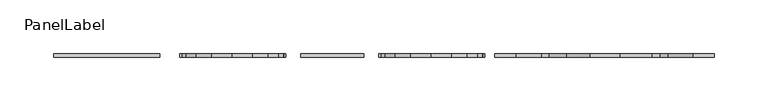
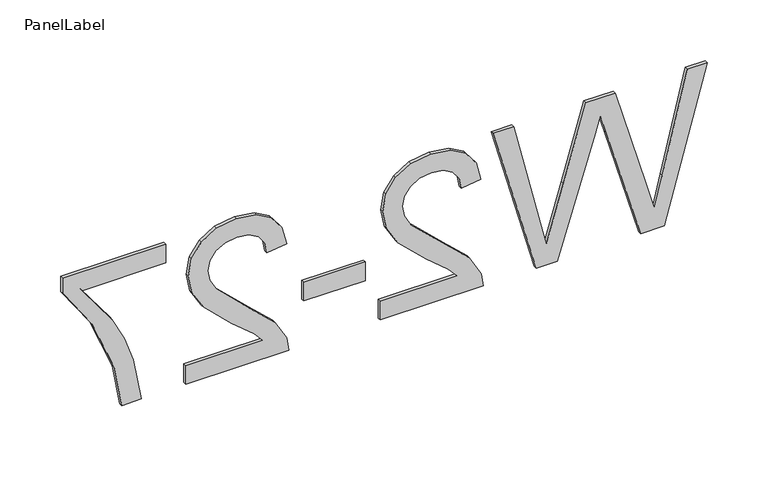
"""IFC4 building model written with IfcOpenShell, lengths in millimetres: fastener geometry, PanelLabel : Miranda."""

from ifc_helpers import new_model, si_unit, frame, origin, place, context, project, spatial, polyline, outline, extrude, source, transform, mapped, element, save


def panellabel_8b51edb7(model_context):
    return source(origin(), model_context, "Body", "SweptSolid", [
        extrude(outline(polyline([(1310.9113766, 268.5683654), (1460.9667612, 309.4892308), (1460.9667612, 290.1461538), (1362.3463766, 266.4069231), (1331.9030112, 259.08), (1358.8294535, 251.2401923), (1460.9667612, 221.4928846), (1460.9667612, 193.6139423), (1386.9282035, 171.9995192), (1331.9030112, 155.9169231), (1361.4671458, 148.8098077), (1460.9667612, 124.8507692), (1460.9667612, 105.5076923), (1310.9113766, 146.4651923), (1310.9113766, 166.5043269), (1426.6767612, 202.4795192), (1442.8326266, 207.4984615), (1423.3796458, 213.1401923), (1310.9113766, 245.9281731), (1310.9113766, 268.5683654)])), frame((0.0, 100.80625, 0.0), z_axis=(0.0, 1.0, 0.0), x_axis=(0.0, 0.0, 1.0)), (0.0, 0.0, 1.0), 3.175),
        extrude(outline(polyline([(1329.6682997, -2.3446154), (1310.9113766, -2.3446154), (1310.9113766, 96.1292308), (1323.8433958, 94.1143269), (1343.7543093, 82.7209615), (1365.4969535, 59.2381731), (1396.7462804, 26.8531731), (1407.5168573, 20.7809856), (1417.9943573, 18.7569231), (1427.3865569, 20.6665024), (1435.1943093, 26.3952404), (1440.4559559, 35.2012861), (1442.2098381, 46.3427885), (1440.4971698, 58.0429688), (1435.359165, 67.1329327), (1427.1988045, 72.9990505), (1416.4190689, 75.0276923), (1418.7636843, 93.7846154), (1436.9069775, 89.2373438), (1450.1595497, 79.4055288), (1458.2649583, 64.8020553), (1460.9667612, 45.9398077), (1457.9627227, 26.9401803), (1448.9506073, 12.3641827), (1435.4873862, 3.0910457), (1419.1300304, 0.0), (1401.3439247, 3.33375), (1382.9533477, 14.4157212), (1357.254165, 41.2872115), (1339.211617, 62.865), (1329.6682997, 71.3275962), (1329.6682997, -2.3446154)])), frame((0.0, 100.80625, 0.0), z_axis=(0.0, 1.0, 0.0), x_axis=(0.0, 0.0, 1.0)), (0.0, 0.0, 1.0), 3.175),
        extrude(outline(polyline([(-75.0276923, 103.98125), (-16.4123077, 103.98125), (-16.4123077, 100.80625), (-75.0276923, 100.80625), (-75.0276923, 103.98125)])), frame((0.0, 0.0, 1355.4590689), z_axis=(0.0, 0.0, 1.0), x_axis=(1.0, 0.0, 0.0)), (0.0, 0.0, 1.0), 18.7569231),
        extrude(outline(polyline([(1329.6682997, -187.5692308), (1310.9113766, -187.5692308), (1310.9113766, -89.0953846), (1323.8433958, -91.1102885), (1343.7543093, -102.5036538), (1365.4969535, -125.9864423), (1396.7462804, -158.3714423), (1407.5168573, -164.4436298), (1417.9943573, -166.4676923), (1427.3865569, -164.558113), (1435.1943093, -158.829375), (1440.4559559, -150.0233293), (1442.2098381, -138.8818269), (1440.4971698, -127.1816466), (1435.359165, -118.0916827), (1427.1988045, -112.2255649), (1416.4190689, -110.1969231), (1418.7636843, -91.44), (1436.9069775, -95.9872716), (1450.1595497, -105.8190865), (1458.2649583, -120.4225601), (1460.9667612, -139.2848077), (1457.9627227, -158.2844351), (1448.9506073, -172.8604327), (1435.4873862, -182.1335697), (1419.1300304, -185.2246154), (1401.3439247, -181.8908654), (1382.9533477, -170.8088942), (1357.254165, -143.9374038), (1339.211617, -122.3596154), (1329.6682997, -113.8970192), (1329.6682997, -187.5692308)])), frame((0.0, 100.80625, 0.0), z_axis=(0.0, 1.0, 0.0), x_axis=(0.0, 0.0, 1.0)), (0.0, 0.0, 1.0), 3.175),
        extrude(outline(polyline([(1439.8652227, -206.3261538), (1458.6221458, -206.3261538), (1458.6221458, -304.8), (1443.455415, -304.8), (1403.1023862, -276.8661058), (1351.6857035, -255.4898077), (1310.9113766, -248.5292308), (1310.9113766, -229.7723077), (1353.2243573, -237.2274519), (1377.5817972, -245.9052764), (1401.0508477, -257.6878846), (1439.8652227, -286.0430769), (1439.8652227, -206.3261538)])), frame((0.0, 100.80625, 0.0), z_axis=(0.0, 1.0, 0.0), x_axis=(0.0, 0.0, 1.0)), (0.0, 0.0, 1.0), 3.175),
    ])


if __name__ == "__main__":
    model = new_model("IFC4")
    model_context = context("Model", 3, world=origin())
    ifc_project = project(units=[si_unit("LENGTHUNIT", "METRE", prefix="MILLI")], contexts=[model_context])
    site = spatial("IfcSite", under=ifc_project)
    building = spatial("IfcBuilding", under=site)
    placement = place(None, origin())
    panellabel_shape = panellabel_8b51edb7(model_context)
    element("IfcFastener", 1, ObjectType="PanelLabel : Miranda", at=placement, inside=building, context=model_context, shape_type="MappedRepresentation", body=[
        mapped(panellabel_shape, transform((0.0, 0.0, 0.0), x_axis=(1.0, 0.0, 0.0), y_axis=(0.0, 1.0, 0.0), z_axis=(0.0, 0.0, 1.0))),
    ])
    save(model, "model.ifc")
